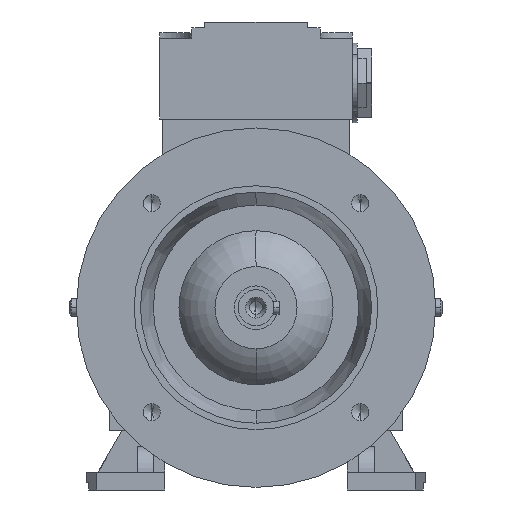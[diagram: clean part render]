
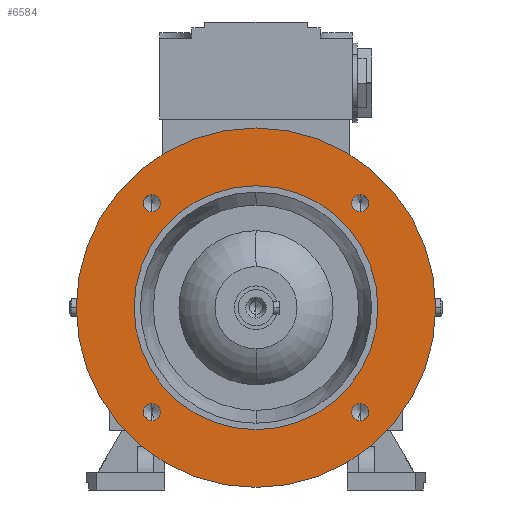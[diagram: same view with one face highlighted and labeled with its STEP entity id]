
A CAD part, left-side view. The second image highlights one B-rep face of the part: STEP entity #6584.
In plain terms, the highlighted planar face has unit normal (-1, 0, 0).
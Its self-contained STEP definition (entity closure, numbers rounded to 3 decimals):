
#29 = ORIENTED_EDGE ( 'NONE', *, *, #11998, .T. ) ;
#274 = EDGE_CURVE ( 'NONE', #5884, #18386, #1239, .T. ) ;
#478 = ORIENTED_EDGE ( 'NONE', *, *, #7996, .T. ) ;
#481 = EDGE_CURVE ( 'NONE', #18386, #5884, #2710, .T. ) ;
#1205 = AXIS2_PLACEMENT_3D ( 'NONE', #10850, #12012, #18124 ) ;
#1239 = CIRCLE ( 'NONE', #9502, 3.325 ) ;
#1329 = DIRECTION ( 'NONE',  ( -1., 0., 0. ) ) ;
#1775 = DIRECTION ( 'NONE',  ( 0., 0., -1. ) ) ;
#1939 = VERTEX_POINT ( 'NONE', #15702 ) ;
#2014 = CARTESIAN_POINT ( 'NONE',  ( -22.5, 0., -70. ) ) ;
#2091 = CARTESIAN_POINT ( 'NONE',  ( -22.5, -40.659, 40.659 ) ) ;
#2289 = EDGE_CURVE ( 'NONE', #15554, #5171, #8358, .T. ) ;
#2445 = ORIENTED_EDGE ( 'NONE', *, *, #2638, .T. ) ;
#2624 = EDGE_LOOP ( 'NONE', ( #8115, #18406 ) ) ;
#2638 = EDGE_CURVE ( 'NONE', #5552, #16464, #9321, .T. ) ;
#2710 = CIRCLE ( 'NONE', #12514, 3.325 ) ;
#2776 = FACE_BOUND ( 'NONE', #16604, .T. ) ;
#2852 = EDGE_LOOP ( 'NONE', ( #4482, #15068 ) ) ;
#3081 = DIRECTION ( 'NONE',  ( 0., 0., -1. ) ) ;
#3302 = EDGE_CURVE ( 'NONE', #16464, #5552, #12805, .T. ) ;
#3312 = DIRECTION ( 'NONE',  ( 1., 0., 0. ) ) ;
#3313 = CIRCLE ( 'NONE', #15293, 3.325 ) ;
#4210 = FACE_BOUND ( 'NONE', #2624, .T. ) ;
#4271 = AXIS2_PLACEMENT_3D ( 'NONE', #5120, #14150, #5227 ) ;
#4482 = ORIENTED_EDGE ( 'NONE', *, *, #2289, .F. ) ;
#5120 = CARTESIAN_POINT ( 'NONE',  ( -22.5, 0., 0. ) ) ;
#5130 = AXIS2_PLACEMENT_3D ( 'NONE', #6472, #10981, #12415 ) ;
#5171 = VERTEX_POINT ( 'NONE', #2014 ) ;
#5210 = CARTESIAN_POINT ( 'NONE',  ( -22.5, 40.659, 40.659 ) ) ;
#5227 = DIRECTION ( 'NONE',  ( 0., 0., 1. ) ) ;
#5552 = VERTEX_POINT ( 'NONE', #11279 ) ;
#5574 = DIRECTION ( 'NONE',  ( 0., 0., 1. ) ) ;
#5641 = FACE_OUTER_BOUND ( 'NONE', #2852, .T. ) ;
#5807 = CARTESIAN_POINT ( 'NONE',  ( -22.5, 40.659, 37.334 ) ) ;
#5884 = VERTEX_POINT ( 'NONE', #7990 ) ;
#6009 = CARTESIAN_POINT ( 'NONE',  ( -22.5, 40.659, -43.984 ) ) ;
#6323 = EDGE_CURVE ( 'NONE', #5171, #15554, #15615, .T. ) ;
#6472 = CARTESIAN_POINT ( 'NONE',  ( -22.5, -40.659, -40.659 ) ) ;
#6584 = ADVANCED_FACE ( 'NONE', ( #4210, #7086, #2776, #18576, #15619, #5641 ), #11498, .T. ) ;
#7086 = FACE_BOUND ( 'NONE', #9837, .T. ) ;
#7183 = CARTESIAN_POINT ( 'NONE',  ( -22.5, -40.659, -37.334 ) ) ;
#7355 = AXIS2_PLACEMENT_3D ( 'NONE', #18597, #15540, #5574 ) ;
#7872 = CARTESIAN_POINT ( 'NONE',  ( -22.5, 0., 70. ) ) ;
#7936 = DIRECTION ( 'NONE',  ( 0., 0., -1. ) ) ;
#7990 = CARTESIAN_POINT ( 'NONE',  ( -22.5, -40.659, 43.984 ) ) ;
#7996 = EDGE_CURVE ( 'NONE', #12065, #14233, #3313, .T. ) ;
#8115 = ORIENTED_EDGE ( 'NONE', *, *, #14722, .T. ) ;
#8122 = EDGE_CURVE ( 'NONE', #1939, #10899, #14079, .T. ) ;
#8137 = CARTESIAN_POINT ( 'NONE',  ( -22.5, 0., 47.5 ) ) ;
#8358 = CIRCLE ( 'NONE', #16305, 70. ) ;
#8941 = CARTESIAN_POINT ( 'NONE',  ( -22.5, -40.659, -40.659 ) ) ;
#9073 = DIRECTION ( 'NONE',  ( 1., 0., 0. ) ) ;
#9082 = AXIS2_PLACEMENT_3D ( 'NONE', #18685, #14479, #9962 ) ;
#9098 = DIRECTION ( 'NONE',  ( 1., 0., 0. ) ) ;
#9321 = CIRCLE ( 'NONE', #18507, 3.325 ) ;
#9502 = AXIS2_PLACEMENT_3D ( 'NONE', #2091, #9098, #7936 ) ;
#9616 = DIRECTION ( 'NONE',  ( 0., 0., -1. ) ) ;
#9837 = EDGE_LOOP ( 'NONE', ( #11835, #10121 ) ) ;
#9962 = DIRECTION ( 'NONE',  ( 0., 0., -1. ) ) ;
#9969 = CARTESIAN_POINT ( 'NONE',  ( -22.5, -40.659, -43.984 ) ) ;
#10015 = CIRCLE ( 'NONE', #9082, 3.325 ) ;
#10076 = CARTESIAN_POINT ( 'NONE',  ( -22.5, -40.659, 37.334 ) ) ;
#10121 = ORIENTED_EDGE ( 'NONE', *, *, #274, .T. ) ;
#10219 = VERTEX_POINT ( 'NONE', #16642 ) ;
#10263 = AXIS2_PLACEMENT_3D ( 'NONE', #10375, #16210, #3081 ) ;
#10375 = CARTESIAN_POINT ( 'NONE',  ( -22.5, 40.659, -40.659 ) ) ;
#10529 = CARTESIAN_POINT ( 'NONE',  ( -22.5, 0., 0. ) ) ;
#10617 = DIRECTION ( 'NONE',  ( 0., 0., -1. ) ) ;
#10702 = EDGE_CURVE ( 'NONE', #16303, #10219, #16073, .T. ) ;
#10850 = CARTESIAN_POINT ( 'NONE',  ( -22.5, 0., 0. ) ) ;
#10899 = VERTEX_POINT ( 'NONE', #8137 ) ;
#10981 = DIRECTION ( 'NONE',  ( 1., 0., 0. ) ) ;
#11279 = CARTESIAN_POINT ( 'NONE',  ( -22.5, 40.659, 43.984 ) ) ;
#11498 = PLANE ( 'NONE',  #17460 ) ;
#11835 = ORIENTED_EDGE ( 'NONE', *, *, #481, .T. ) ;
#11854 = CARTESIAN_POINT ( 'NONE',  ( -22.5, -40.659, 40.659 ) ) ;
#11998 = EDGE_CURVE ( 'NONE', #10219, #16303, #10015, .T. ) ;
#12001 = ORIENTED_EDGE ( 'NONE', *, *, #12248, .T. ) ;
#12012 = DIRECTION ( 'NONE',  ( 1., 0., 0. ) ) ;
#12065 = VERTEX_POINT ( 'NONE', #7183 ) ;
#12248 = EDGE_CURVE ( 'NONE', #14233, #12065, #13413, .T. ) ;
#12415 = DIRECTION ( 'NONE',  ( 0., 0., -1. ) ) ;
#12514 = AXIS2_PLACEMENT_3D ( 'NONE', #11854, #3312, #1775 ) ;
#12805 = CIRCLE ( 'NONE', #14022, 3.325 ) ;
#13413 = CIRCLE ( 'NONE', #5130, 3.325 ) ;
#14022 = AXIS2_PLACEMENT_3D ( 'NONE', #15310, #17893, #10617 ) ;
#14079 = CIRCLE ( 'NONE', #1205, 47.5 ) ;
#14150 = DIRECTION ( 'NONE',  ( 1., 0., 0. ) ) ;
#14224 = DIRECTION ( 'NONE',  ( 1., 0., 0. ) ) ;
#14233 = VERTEX_POINT ( 'NONE', #9969 ) ;
#14479 = DIRECTION ( 'NONE',  ( 1., 0., 0. ) ) ;
#14697 = DIRECTION ( 'NONE',  ( 1., 0., 0. ) ) ;
#14722 = EDGE_CURVE ( 'NONE', #10899, #1939, #14943, .T. ) ;
#14922 = DIRECTION ( 'NONE',  ( 0., 0., 1. ) ) ;
#14943 = CIRCLE ( 'NONE', #4271, 47.5 ) ;
#15068 = ORIENTED_EDGE ( 'NONE', *, *, #6323, .F. ) ;
#15107 = EDGE_LOOP ( 'NONE', ( #16344, #2445 ) ) ;
#15293 = AXIS2_PLACEMENT_3D ( 'NONE', #8941, #14697, #16225 ) ;
#15310 = CARTESIAN_POINT ( 'NONE',  ( -22.5, 40.659, 40.659 ) ) ;
#15540 = DIRECTION ( 'NONE',  ( 1., 0., 0. ) ) ;
#15554 = VERTEX_POINT ( 'NONE', #7872 ) ;
#15615 = CIRCLE ( 'NONE', #7355, 70. ) ;
#15619 = FACE_BOUND ( 'NONE', #15107, .T. ) ;
#15702 = CARTESIAN_POINT ( 'NONE',  ( -22.5, 0., -47.5 ) ) ;
#15800 = CARTESIAN_POINT ( 'NONE',  ( -22.5, 0., 58.75 ) ) ;
#15867 = EDGE_LOOP ( 'NONE', ( #18789, #29 ) ) ;
#16073 = CIRCLE ( 'NONE', #10263, 3.325 ) ;
#16210 = DIRECTION ( 'NONE',  ( 1., 0., 0. ) ) ;
#16225 = DIRECTION ( 'NONE',  ( 0., 0., -1. ) ) ;
#16303 = VERTEX_POINT ( 'NONE', #6009 ) ;
#16305 = AXIS2_PLACEMENT_3D ( 'NONE', #10529, #9073, #14922 ) ;
#16344 = ORIENTED_EDGE ( 'NONE', *, *, #3302, .T. ) ;
#16464 = VERTEX_POINT ( 'NONE', #5807 ) ;
#16604 = EDGE_LOOP ( 'NONE', ( #12001, #478 ) ) ;
#16642 = CARTESIAN_POINT ( 'NONE',  ( -22.5, 40.659, -37.334 ) ) ;
#17145 = DIRECTION ( 'NONE',  ( 0., 0., 1. ) ) ;
#17460 = AXIS2_PLACEMENT_3D ( 'NONE', #15800, #1329, #17145 ) ;
#17893 = DIRECTION ( 'NONE',  ( 1., 0., 0. ) ) ;
#18124 = DIRECTION ( 'NONE',  ( 0., 0., 1. ) ) ;
#18386 = VERTEX_POINT ( 'NONE', #10076 ) ;
#18406 = ORIENTED_EDGE ( 'NONE', *, *, #8122, .T. ) ;
#18507 = AXIS2_PLACEMENT_3D ( 'NONE', #5210, #14224, #9616 ) ;
#18576 = FACE_BOUND ( 'NONE', #15867, .T. ) ;
#18597 = CARTESIAN_POINT ( 'NONE',  ( -22.5, 0., 0. ) ) ;
#18685 = CARTESIAN_POINT ( 'NONE',  ( -22.5, 40.659, -40.659 ) ) ;
#18789 = ORIENTED_EDGE ( 'NONE', *, *, #10702, .T. ) ;
